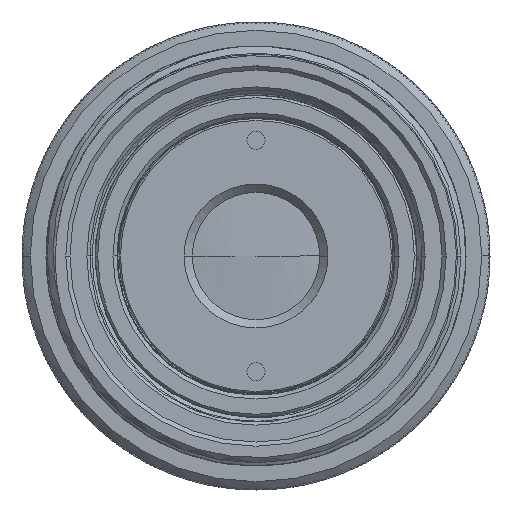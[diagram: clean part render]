
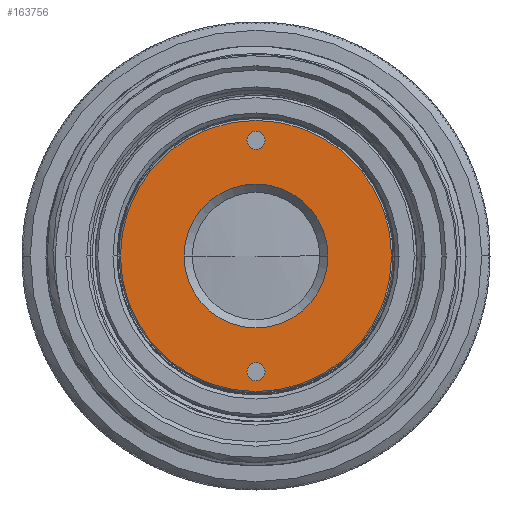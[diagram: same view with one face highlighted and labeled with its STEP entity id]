
A CAD part, front view. The second image highlights one B-rep face of the part: STEP entity #163756.
In plain terms, the highlighted planar face has unit normal (0, -1, 0).
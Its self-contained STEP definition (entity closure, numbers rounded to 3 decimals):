
#87802=CARTESIAN_POINT('',(0.,10.85,-7.));
#87803=DIRECTION('',(0.,-1.,0.));
#87804=DIRECTION('',(0.,0.,-1.));
#87805=AXIS2_PLACEMENT_3D('',#87802,#87803,#87804);
#87807=CARTESIAN_POINT('',(0.,10.85,-7.));
#87808=DIRECTION('',(0.,-1.,0.));
#87809=DIRECTION('',(0.,0.,1.));
#87810=AXIS2_PLACEMENT_3D('',#87807,#87808,#87809);
#87812=CARTESIAN_POINT('',(0.,10.85,7.));
#87813=DIRECTION('',(0.,-1.,0.));
#87814=DIRECTION('',(0.,0.,-1.));
#87815=AXIS2_PLACEMENT_3D('',#87812,#87813,#87814);
#87817=CARTESIAN_POINT('',(0.,10.85,7.));
#87818=DIRECTION('',(0.,-1.,0.));
#87819=DIRECTION('',(0.,0.,1.));
#87820=AXIS2_PLACEMENT_3D('',#87817,#87818,#87819);
#87822=CARTESIAN_POINT('',(0.,10.85,0.));
#87823=DIRECTION('',(0.,1.,0.));
#87824=DIRECTION('',(1.,0.,0.));
#87825=AXIS2_PLACEMENT_3D('',#87822,#87823,#87824);
#87827=CARTESIAN_POINT('',(0.,10.85,0.));
#87828=DIRECTION('',(0.,1.,0.));
#87829=DIRECTION('',(-1.,0.,0.));
#87830=AXIS2_PLACEMENT_3D('',#87827,#87828,#87829);
#87832=CARTESIAN_POINT('',(0.,10.85,0.));
#87833=DIRECTION('',(0.,1.,0.));
#87834=DIRECTION('',(1.,0.,0.));
#87835=AXIS2_PLACEMENT_3D('',#87832,#87833,#87834);
#87837=CARTESIAN_POINT('',(0.,10.85,0.));
#87838=DIRECTION('',(0.,1.,0.));
#87839=DIRECTION('',(-1.,0.,0.));
#87840=AXIS2_PLACEMENT_3D('',#87837,#87838,#87839);
#101682=CARTESIAN_POINT('',(0.,10.85,-7.55));
#101683=CARTESIAN_POINT('',(0.,10.85,-6.45));
#101684=VERTEX_POINT('',#101682);
#101685=VERTEX_POINT('',#101683);
#101686=CARTESIAN_POINT('',(0.,10.85,6.45));
#101687=CARTESIAN_POINT('',(0.,10.85,7.55));
#101688=VERTEX_POINT('',#101686);
#101689=VERTEX_POINT('',#101687);
#101690=CARTESIAN_POINT('',(4.35,10.85,0.));
#101691=CARTESIAN_POINT('',(-4.35,10.85,0.));
#101692=VERTEX_POINT('',#101690);
#101693=VERTEX_POINT('',#101691);
#101702=CARTESIAN_POINT('',(8.2,10.85,0.));
#101703=CARTESIAN_POINT('',(-8.2,10.85,0.));
#101704=VERTEX_POINT('',#101702);
#101705=VERTEX_POINT('',#101703);
#163729=CARTESIAN_POINT('',(0.,10.85,0.));
#163730=DIRECTION('',(0.,1.,0.));
#163731=DIRECTION('',(1.,0.,0.));
#163732=AXIS2_PLACEMENT_3D('',#163729,#163730,#163731);
#163733=PLANE('',#163732);
#163734=ORIENTED_EDGE('',*,*,#163616,.T.);
#163735=ORIENTED_EDGE('',*,*,#163723,.T.);
#163736=EDGE_LOOP('',(#163734,#163735));
#163737=FACE_OUTER_BOUND('',#163736,.F.);
#163739=ORIENTED_EDGE('',*,*,#163738,.T.);
#163741=ORIENTED_EDGE('',*,*,#163740,.T.);
#163742=EDGE_LOOP('',(#163739,#163741));
#163743=FACE_BOUND('',#163742,.F.);
#163745=ORIENTED_EDGE('',*,*,#163744,.F.);
#163747=ORIENTED_EDGE('',*,*,#163746,.F.);
#163748=EDGE_LOOP('',(#163745,#163747));
#163749=FACE_BOUND('',#163748,.F.);
#163751=ORIENTED_EDGE('',*,*,#163750,.T.);
#163753=ORIENTED_EDGE('',*,*,#163752,.T.);
#163754=EDGE_LOOP('',(#163751,#163753));
#163755=FACE_BOUND('',#163754,.F.);
#87806=CIRCLE('',#87805,0.55);
#87811=CIRCLE('',#87810,0.55);
#87816=CIRCLE('',#87815,0.55);
#87821=CIRCLE('',#87820,0.55);
#87826=CIRCLE('',#87825,4.35);
#87831=CIRCLE('',#87830,4.35);
#87836=CIRCLE('',#87835,8.2);
#87841=CIRCLE('',#87840,8.2);
#163616=EDGE_CURVE('',#101704,#101705,#87836,.T.);
#163723=EDGE_CURVE('',#101705,#101704,#87841,.T.);
#163738=EDGE_CURVE('',#101688,#101689,#87816,.T.);
#163740=EDGE_CURVE('',#101689,#101688,#87821,.T.);
#163744=EDGE_CURVE('',#101692,#101693,#87826,.T.);
#163746=EDGE_CURVE('',#101693,#101692,#87831,.T.);
#163750=EDGE_CURVE('',#101684,#101685,#87806,.T.);
#163752=EDGE_CURVE('',#101685,#101684,#87811,.T.);
#163756=ADVANCED_FACE('',(#163737,#163743,#163749,#163755),#163733,.F.);
